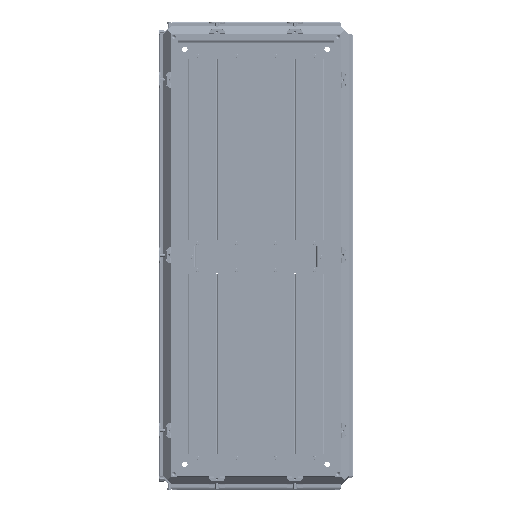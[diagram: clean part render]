
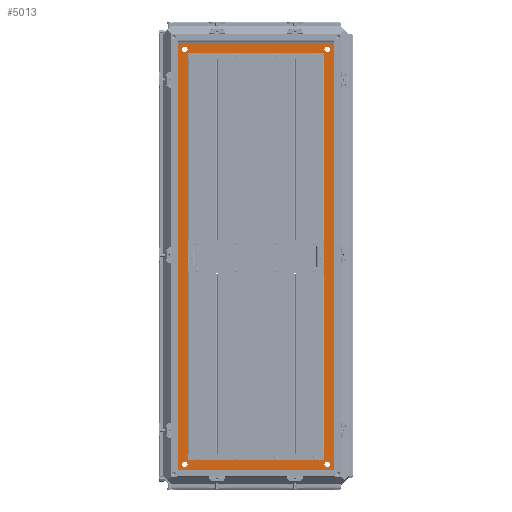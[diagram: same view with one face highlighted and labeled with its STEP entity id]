
A CAD part, top view. The second image highlights one B-rep face of the part: STEP entity #5013.
In plain terms, the highlighted planar face has unit normal (0, 0, 1).
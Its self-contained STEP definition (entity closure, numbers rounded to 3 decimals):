
#5013=ADVANCED_FACE('',(#20227,#20229,#20231,#20233,#20235,#20237),#20239,.F.);
#20227=FACE_BOUND('',#20228,.T.);
#20228=EDGE_LOOP('',(#140287,#140288,#140289,#140290));
#20229=FACE_BOUND('',#20230,.T.);
#20230=EDGE_LOOP('',(#140291,#140292,#140293,#140294));
#20231=FACE_BOUND('',#20232,.T.);
#20232=EDGE_LOOP('',(#140295));
#20233=FACE_BOUND('',#20234,.T.);
#20234=EDGE_LOOP('',(#140296));
#20235=FACE_BOUND('',#20236,.T.);
#20236=EDGE_LOOP('',(#140297));
#20237=FACE_BOUND('',#20238,.T.);
#20238=EDGE_LOOP('',(#140298));
#20239=PLANE('',#20240);
#20240=AXIS2_PLACEMENT_3D('',#20241,#20242,#20243);
#20241=CARTESIAN_POINT('',(0.,0.,-47.5));
#20242=DIRECTION('',(0.,0.,-1.));
#20243=DIRECTION('',(0.,1.,0.));
#140287=ORIENTED_EDGE('',*,*,#213013,.F.);
#140288=ORIENTED_EDGE('',*,*,#213014,.F.);
#140289=ORIENTED_EDGE('',*,*,#213015,.T.);
#140290=ORIENTED_EDGE('',*,*,#213016,.T.);
#140291=ORIENTED_EDGE('',*,*,#213017,.T.);
#140292=ORIENTED_EDGE('',*,*,#213018,.F.);
#140293=ORIENTED_EDGE('',*,*,#213019,.F.);
#140294=ORIENTED_EDGE('',*,*,#213020,.F.);
#140295=ORIENTED_EDGE('',*,*,#213021,.T.);
#140296=ORIENTED_EDGE('',*,*,#213022,.F.);
#140297=ORIENTED_EDGE('',*,*,#213023,.F.);
#140298=ORIENTED_EDGE('',*,*,#213024,.T.);
#213013=EDGE_CURVE('',#250316,#250317,#250318,.F.);
#213014=EDGE_CURVE('',#250319,#250316,#250320,.F.);
#213015=EDGE_CURVE('',#250319,#250321,#250322,.F.);
#213016=EDGE_CURVE('',#250321,#250317,#250323,.F.);
#213017=EDGE_CURVE('',#250324,#250325,#250326,.F.);
#213018=EDGE_CURVE('',#250327,#250325,#250328,.F.);
#213019=EDGE_CURVE('',#250329,#250327,#250330,.F.);
#213020=EDGE_CURVE('',#250324,#250329,#250331,.F.);
#213021=EDGE_CURVE('',#250332,#250332,#250333,.T.);
#213022=EDGE_CURVE('',#250334,#250334,#250335,.T.);
#213023=EDGE_CURVE('',#250336,#250336,#250337,.T.);
#213024=EDGE_CURVE('',#250338,#250338,#250339,.T.);
#250316=VERTEX_POINT('',#315153);
#250317=VERTEX_POINT('',#315154);
#250318=LINE('',#315155,#315156);
#250319=VERTEX_POINT('',#315158);
#250320=LINE('',#315159,#315160);
#250321=VERTEX_POINT('',#315162);
#250322=LINE('',#315163,#315164);
#250323=LINE('',#315166,#315167);
#250324=VERTEX_POINT('',#315169);
#250325=VERTEX_POINT('',#315170);
#250326=LINE('',#315171,#315172);
#250327=VERTEX_POINT('',#315174);
#250328=LINE('',#315175,#315176);
#250329=VERTEX_POINT('',#315178);
#250330=LINE('',#315179,#315180);
#250331=LINE('',#315182,#315183);
#250332=VERTEX_POINT('',#315185);
#250333=CIRCLE('',#315186,7.);
#250334=VERTEX_POINT('',#315190);
#250335=CIRCLE('',#315191,7.);
#250336=VERTEX_POINT('',#315195);
#250337=CIRCLE('',#315196,7.);
#250338=VERTEX_POINT('',#315200);
#250339=CIRCLE('',#315201,7.);
#315153=CARTESIAN_POINT('',(-1.6,1.6,-47.5));
#315154=CARTESIAN_POINT('',(-400.4,1.6,-47.5));
#315155=CARTESIAN_POINT('',(-400.4,1.6,-47.5));
#315156=VECTOR('',#315157,1.);
#315157=DIRECTION('',(1.,0.,0.));
#315158=CARTESIAN_POINT('',(-1.6,1100.4,-47.5));
#315159=CARTESIAN_POINT('',(-1.6,1.6,-47.5));
#315160=VECTOR('',#315161,1.);
#315161=DIRECTION('',(0.,1.,0.));
#315162=CARTESIAN_POINT('',(-400.4,1100.4,-47.5));
#315163=CARTESIAN_POINT('',(-400.4,1100.4,-47.5));
#315164=VECTOR('',#315165,1.);
#315165=DIRECTION('',(1.,0.,0.));
#315166=CARTESIAN_POINT('',(-400.4,1.6,-47.5));
#315167=VECTOR('',#315168,1.);
#315168=DIRECTION('',(0.,1.,0.));
#315169=CARTESIAN_POINT('',(-39.4,39.4,-47.5));
#315170=CARTESIAN_POINT('',(-362.6,39.4,-47.5));
#315171=CARTESIAN_POINT('',(-362.6,39.4,-47.5));
#315172=VECTOR('',#315173,1.);
#315173=DIRECTION('',(1.,0.,0.));
#315174=CARTESIAN_POINT('',(-362.6,1062.6,-47.5));
#315175=CARTESIAN_POINT('',(-362.6,39.4,-47.5));
#315176=VECTOR('',#315177,1.);
#315177=DIRECTION('',(0.,1.,0.));
#315178=CARTESIAN_POINT('',(-39.4,1062.6,-47.5));
#315179=CARTESIAN_POINT('',(-362.6,1062.6,-47.5));
#315180=VECTOR('',#315181,1.);
#315181=DIRECTION('',(1.,0.,0.));
#315182=CARTESIAN_POINT('',(-39.4,1062.6,-47.5));
#315183=VECTOR('',#315184,1.);
#315184=DIRECTION('',(0.,-1.,0.));
#315185=CARTESIAN_POINT('',(-18.5,25.5,-47.5));
#315186=AXIS2_PLACEMENT_3D('',#315187,#315188,#315189);
#315187=CARTESIAN_POINT('',(-18.5,18.5,-47.5));
#315188=DIRECTION('',(0.,0.,-1.));
#315189=DIRECTION('',(0.,1.,0.));
#315190=CARTESIAN_POINT('',(-383.5,25.5,-47.5));
#315191=AXIS2_PLACEMENT_3D('',#315192,#315193,#315194);
#315192=CARTESIAN_POINT('',(-383.5,18.5,-47.5));
#315193=DIRECTION('',(0.,0.,1.));
#315194=DIRECTION('',(0.,1.,0.));
#315195=CARTESIAN_POINT('',(-18.5,1076.5,-47.5));
#315196=AXIS2_PLACEMENT_3D('',#315197,#315198,#315199);
#315197=CARTESIAN_POINT('',(-18.5,1083.5,-47.5));
#315198=DIRECTION('',(0.,0.,1.));
#315199=DIRECTION('',(0.,-1.,0.));
#315200=CARTESIAN_POINT('',(-383.5,1076.5,-47.5));
#315201=AXIS2_PLACEMENT_3D('',#315202,#315203,#315204);
#315202=CARTESIAN_POINT('',(-383.5,1083.5,-47.5));
#315203=DIRECTION('',(0.,0.,-1.));
#315204=DIRECTION('',(0.,-1.,0.));
